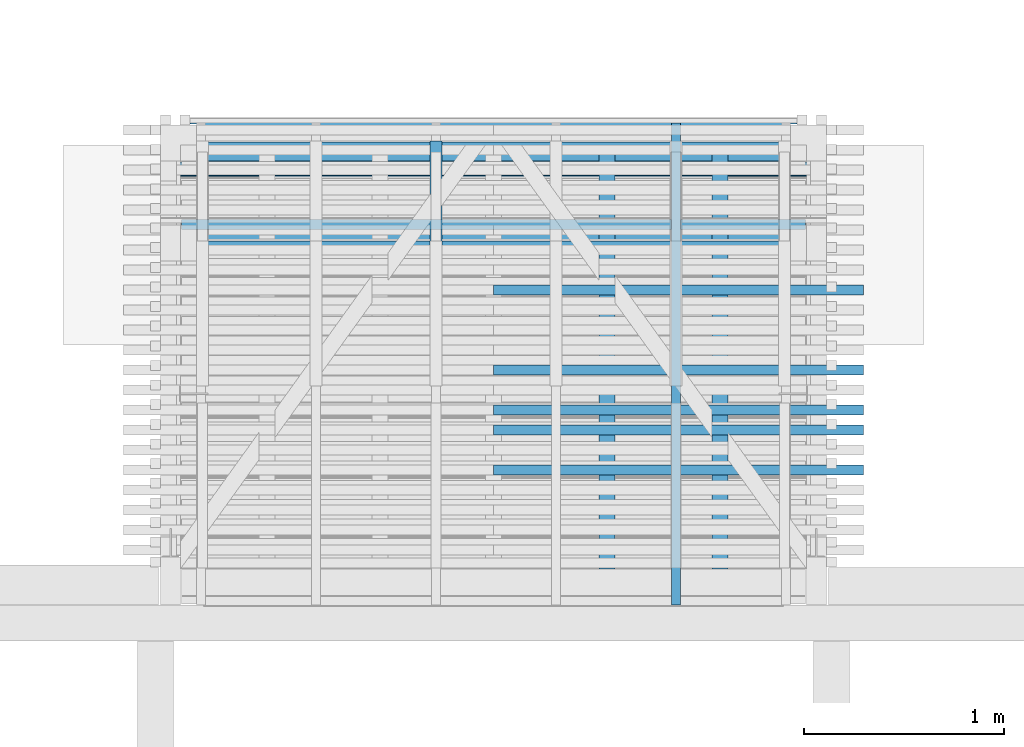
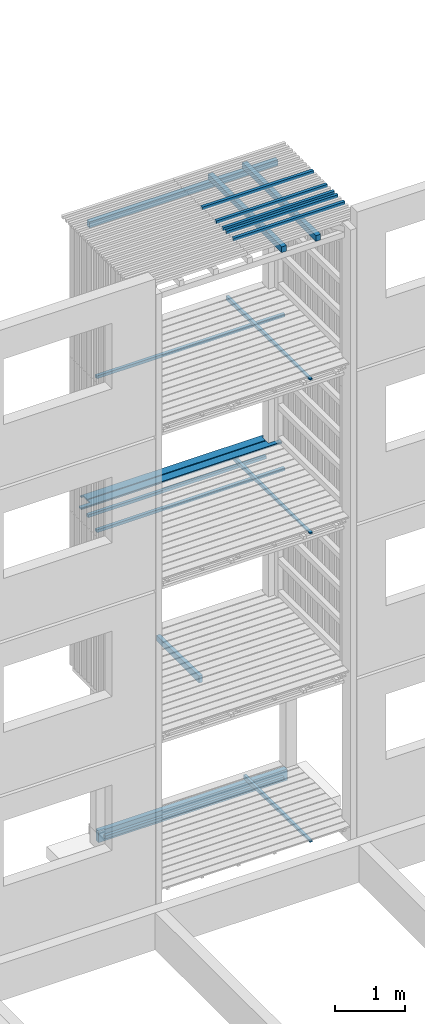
# One storey, part 100 of 182: 19 beams.
"""IFC2X3 building model written with IfcOpenShell, lengths in metres."""

from ifc_helpers import new_model, si_unit, frame, origin, place, context, project, spatial, faceted_brep, element, save


model = new_model("IFC2X3")

# Units and contexts
model_context = context("Model", 3, precision=1e-06, world=origin())
ifc_project = project(units=[si_unit("LENGTHUNIT", "METRE"), si_unit("PLANEANGLEUNIT", "RADIAN")], contexts=[model_context])

# Site, building, storey
site = spatial("IfcSite", under=ifc_project, CompositionType="ELEMENT")
building = spatial("IfcBuilding", under=site, CompositionType="ELEMENT")
storey = spatial("IfcBuildingStorey", under=building, Name="vs", CompositionType="ELEMENT", Elevation=-0.85)

# Beams
placement = place(None, origin())
beam_1_placement = place(placement, frame((43.195401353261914, 6.665077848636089, -0.164999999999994), z_axis=(0.0, 0.0, 1.0), x_axis=(1.0, 0.0, 0.0)))
element("IfcBeam", 1, at=beam_1_placement, inside=storey, Name="Ligneul", context=model_context, shape_type="Brep", body=[
    faceted_brep([(2e-15, -0.024999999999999, 0.025), (2e-15, -0.024999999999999, -0.025), (2.970000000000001, -0.024999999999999, -0.025), (2.970000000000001, -0.024999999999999, 0.025), (2e-15, 0.024999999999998, 0.025), (2e-15, -0.024999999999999, 0.025), (2.970000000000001, -0.024999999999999, 0.025), (2.970000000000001, 0.025000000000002, 0.025), (2e-15, -0.024999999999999, 0.025), (2e-15, 0.024999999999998, 0.025), (2e-15, 0.024999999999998, -0.025), (2e-15, -0.024999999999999, -0.025), (2e-15, 0.024999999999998, -0.025), (2e-15, 0.024999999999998, 0.025), (2.970000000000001, 0.025000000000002, 0.025), (2.970000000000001, 0.025000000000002, -0.025), (2.970000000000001, -0.024999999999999, -0.025), (2e-15, -0.024999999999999, -0.025), (2e-15, 0.024999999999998, -0.025), (2.970000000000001, 0.025000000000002, -0.025), (2.970000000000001, -0.024999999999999, 0.025), (2.970000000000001, -0.024999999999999, -0.025), (2.970000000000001, 0.025000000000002, -0.025), (2.970000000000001, 0.025000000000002, 0.025)], [[[0, 1, 2, 3]], [[4, 5, 6, 7]], [[8, 9, 10, 11]], [[12, 13, 14, 15]], [[16, 17, 18, 19]], [[20, 21, 22, 23]]]),
])
beam_2_placement = place(placement, frame((44.39340135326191, 5.965077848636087, 2.604249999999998), z_axis=(0.0, 0.0, 1.0), x_axis=(1.2e-14, 1.0, 0.0)))
element("IfcBeam", 2, at=beam_2_placement, inside=storey, Name="Solive", context=model_context, shape_type="Brep", body=[
    faceted_brep([(0.0, -0.030000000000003, -0.06185), (1.225000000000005, -0.029999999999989, -0.06185), (1.225000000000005, -0.029999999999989, 0.037349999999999), (0.0, -0.030000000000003, 0.06185), (-1e-15, 0.029999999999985, -0.06185), (1.225000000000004, 0.029999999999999, -0.06185), (1.225000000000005, -0.029999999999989, -0.06185), (0.0, -0.030000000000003, -0.06185), (-1e-15, 0.029999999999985, 0.06185), (-1e-15, 0.029999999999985, -0.06185), (0.0, -0.030000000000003, -0.06185), (0.0, -0.030000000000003, 0.06185), (1.225000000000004, 0.029999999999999, -0.06185), (-1e-15, 0.029999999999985, -0.06185), (-1e-15, 0.029999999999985, 0.06185), (1.225000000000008, 0.029999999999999, 0.037349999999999), (1.225000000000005, -0.029999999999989, 0.037349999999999), (1.225000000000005, -0.029999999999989, -0.06185), (1.225000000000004, 0.029999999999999, -0.06185), (1.225000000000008, 0.029999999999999, 0.037349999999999), (0.0, -0.030000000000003, 0.06185), (1.225000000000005, -0.029999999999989, 0.037349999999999), (1.225000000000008, 0.029999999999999, 0.037349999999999), (-1e-15, 0.029999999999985, 0.06185)], [[[0, 1, 2, 3]], [[4, 5, 6, 7]], [[8, 9, 10, 11]], [[12, 13, 14, 15]], [[16, 17, 18, 19]], [[20, 21, 22, 23]]]),
])
beam_3_placement = place(placement, frame((46.325401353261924, 7.130077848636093, 10.30499999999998), z_axis=(0.0, 0.0, 1.0), x_axis=(-1.0, 0.0, 0.0)))
element("IfcBeam", 3, at=beam_3_placement, inside=storey, Name="Support bardage", context=model_context, shape_type="Brep", body=[
    faceted_brep([(3e-15, 0.04, -0.050000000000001), (3e-15, -0.039999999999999, -0.050000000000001), (3e-15, -0.039999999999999, 0.050000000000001), (3e-15, 0.04, 0.050000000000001), (3.129999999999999, -0.039999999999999, 0.050000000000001), (3.129999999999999, -0.039999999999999, -0.050000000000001), (3.129999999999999, 0.04, -0.050000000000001), (3.129999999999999, 0.04, 0.050000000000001), (3e-15, -0.039999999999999, -0.050000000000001), (3e-15, 0.04, -0.050000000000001), (3.129999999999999, 0.04, -0.050000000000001), (3.129999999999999, -0.039999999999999, -0.050000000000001), (3e-15, -0.039999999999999, 0.050000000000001), (3e-15, -0.039999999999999, -0.050000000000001), (3.129999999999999, -0.039999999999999, -0.050000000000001), (3.129999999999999, -0.039999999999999, 0.050000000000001), (3e-15, 0.04, 0.050000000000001), (3e-15, -0.039999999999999, 0.050000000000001), (3.129999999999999, -0.039999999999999, 0.050000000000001), (3.129999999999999, 0.04, 0.050000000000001), (3.129999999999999, 0.04, -0.050000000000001), (3e-15, 0.04, -0.050000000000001), (3e-15, 0.04, 0.050000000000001), (3.129999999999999, 0.04, 0.050000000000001)], [[[0, 1, 2, 3]], [[4, 5, 6, 7]], [[8, 9, 10, 11]], [[12, 13, 14, 15]], [[16, 17, 18, 19]], [[20, 21, 22, 23]]]),
])
beam_4_placement = place(placement, frame((46.19721953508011, 7.234577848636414, 5.433499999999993), z_axis=(0.0, 0.0, 1.0), x_axis=(-1.0, 0.0, 0.0)))
element("IfcBeam", 4, at=beam_4_placement, inside=storey, Name="Caillebotis", context=model_context, shape_type="Brep", body=[
    faceted_brep([(3.033636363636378, -0.072499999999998, -0.0135), (3.033636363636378, -0.072499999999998, 0.008500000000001), (2e-15, -0.072499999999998, 0.008500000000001), (2e-15, -0.072500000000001, -0.0135), (2.996818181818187, 0.072500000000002, 0.0085), (2.996818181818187, 0.067500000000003, 0.0135), (2.996818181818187, -0.040499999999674, 0.0135), (2.996818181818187, -0.040499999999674, -0.0135), (2.996818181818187, 0.072500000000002, -0.013500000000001), (0.036818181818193, -0.040499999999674, -0.0135), (0.036818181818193, 0.072499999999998, -0.0135), (2.996818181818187, 0.072500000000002, -0.013500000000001), (2.996818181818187, -0.040499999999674, -0.0135), (3.033636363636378, -0.040499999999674, -0.013500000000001), (3.033636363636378, -0.072499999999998, -0.0135), (2e-15, -0.072500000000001, -0.0135), (2e-15, -0.040499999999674, -0.0135), (3.033636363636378, -0.072499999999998, 0.008500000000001), (3.033636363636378, -0.072499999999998, -0.0135), (3.033636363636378, -0.040499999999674, -0.013500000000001), (3.033636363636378, -0.040499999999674, 0.0135), (3.033636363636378, -0.067500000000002, 0.0135), (3.033636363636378, -0.040499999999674, 0.0135), (3.033636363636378, -0.040499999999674, -0.013500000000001), (2.996818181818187, -0.040499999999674, -0.0135), (2.996818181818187, -0.040499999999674, 0.0135), (2.996818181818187, 0.072500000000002, 0.0085), (2.996818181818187, 0.072500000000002, -0.013500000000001), (0.036818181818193, 0.072499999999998, -0.0135), (0.036818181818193, 0.072499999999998, 0.008500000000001), (2.996818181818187, 0.067500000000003, 0.0135), (2.996818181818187, 0.072500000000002, 0.0085), (0.036818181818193, 0.072499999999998, 0.008500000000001), (0.036818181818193, 0.067500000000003, 0.0135), (0.036818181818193, 0.067500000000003, 0.0135), (0.036818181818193, 0.072499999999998, 0.008500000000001), (0.036818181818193, 0.072499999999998, -0.0135), (0.036818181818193, -0.040499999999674, -0.0135), (0.036818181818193, -0.040499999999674, 0.0135), (0.036818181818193, -0.040499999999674, 0.0135), (0.036818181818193, -0.040499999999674, -0.0135), (2e-15, -0.040499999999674, -0.0135), (2e-15, -0.040499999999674, 0.0135), (3.033636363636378, -0.067500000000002, 0.0135), (3.033636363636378, -0.040499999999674, 0.0135), (2.996818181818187, -0.040499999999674, 0.0135), (2.996818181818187, 0.067500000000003, 0.0135), (0.036818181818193, 0.067500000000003, 0.0135), (0.036818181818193, -0.040499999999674, 0.0135), (2e-15, -0.040499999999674, 0.0135), (2e-15, -0.067500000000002, 0.0135), (2e-15, -0.072499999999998, 0.008500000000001), (3.033636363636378, -0.072499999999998, 0.008500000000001), (3.033636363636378, -0.067500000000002, 0.0135), (2e-15, -0.067500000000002, 0.0135), (2e-15, -0.072500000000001, -0.0135), (2e-15, -0.072499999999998, 0.008500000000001), (2e-15, -0.067500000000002, 0.0135), (2e-15, -0.040499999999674, 0.0135), (2e-15, -0.040499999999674, -0.0135)], [[[0, 1, 2, 3]], [[4, 5, 6, 7, 8]], [[9, 10, 11, 12, 13, 14, 15, 16]], [[17, 18, 19, 20, 21]], [[22, 23, 24, 25]], [[26, 27, 28, 29]], [[30, 31, 32, 33]], [[34, 35, 36, 37, 38]], [[39, 40, 41, 42]], [[43, 44, 45, 46, 47, 48, 49, 50]], [[51, 52, 53, 54]], [[55, 56, 57, 58, 59]]]),
])
beam_5_placement = place(placement, frame((46.240401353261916, 6.771744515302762, 5.167399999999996), z_axis=(0.0, 0.0, 1.0), x_axis=(-1.0, 0.0, 0.0)))
element("IfcBeam", 5, at=beam_5_placement, inside=storey, Name="Bardage", context=model_context, shape_type="Brep", body=[
    faceted_brep([(3.120000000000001, 0.025000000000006, 0.024999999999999), (3.120000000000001, -0.024999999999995, 0.024999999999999), (3.120000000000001, -0.024999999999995, -0.025), (3.120000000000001, 0.025000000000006, -0.025), (-3e-15, -0.024999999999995, 0.024999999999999), (-3e-15, 0.025000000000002, 0.024999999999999), (-3e-15, 0.025000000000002, -0.025), (-3e-15, -0.024999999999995, -0.025), (-3e-15, -0.024999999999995, -0.025), (-3e-15, 0.025000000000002, -0.025), (3.120000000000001, 0.025000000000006, -0.025), (3.120000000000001, -0.024999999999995, -0.025), (3.120000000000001, -0.024999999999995, -0.025), (3.120000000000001, -0.024999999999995, 0.024999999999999), (-3e-15, -0.024999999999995, 0.024999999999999), (-3e-15, -0.024999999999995, -0.025), (3.120000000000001, 0.025000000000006, 0.024999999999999), (3.120000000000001, 0.025000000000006, -0.025), (-3e-15, 0.025000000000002, -0.025), (-3e-15, 0.025000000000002, 0.024999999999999), (3.120000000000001, -0.024999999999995, 0.024999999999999), (3.120000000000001, 0.025000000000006, 0.024999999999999), (-3e-15, 0.025000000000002, 0.024999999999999), (-3e-15, -0.024999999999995, 0.024999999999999)], [[[0, 1, 2, 3]], [[4, 5, 6, 7]], [[8, 9, 10, 11]], [[12, 13, 14, 15]], [[16, 17, 18, 19]], [[20, 21, 22, 23]]]),
])
beam_6_placement = place(placement, frame((46.240401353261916, 6.771744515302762, 7.86739999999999), z_axis=(0.0, 0.0, 1.0), x_axis=(-1.0, 0.0, 0.0)))
element("IfcBeam", 6, at=beam_6_placement, inside=storey, Name="Bardage", context=model_context, shape_type="Brep", body=[
    faceted_brep([(-3e-15, -0.024999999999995, 0.025000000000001), (-3e-15, 0.025000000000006, 0.025000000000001), (-3e-15, 0.025000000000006, -0.024999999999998), (-3e-15, -0.024999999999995, -0.024999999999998), (3.119999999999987, 0.025000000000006, 0.025000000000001), (3.120000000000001, -0.024999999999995, 0.025000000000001), (3.120000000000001, -0.024999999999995, -0.024999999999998), (3.119999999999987, 0.025000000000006, -0.024999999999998), (3.120000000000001, -0.024999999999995, 0.025000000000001), (3.119999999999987, 0.025000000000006, 0.025000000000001), (-3e-15, 0.025000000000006, 0.025000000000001), (-3e-15, -0.024999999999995, 0.025000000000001), (-3e-15, 0.025000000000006, 0.025000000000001), (3.119999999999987, 0.025000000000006, 0.025000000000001), (3.119999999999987, 0.025000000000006, -0.024999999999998), (-3e-15, 0.025000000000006, -0.024999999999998), (-3e-15, -0.024999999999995, -0.024999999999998), (-3e-15, 0.025000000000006, -0.024999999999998), (3.119999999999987, 0.025000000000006, -0.024999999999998), (3.120000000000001, -0.024999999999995, -0.024999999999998), (3.120000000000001, -0.024999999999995, -0.024999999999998), (3.120000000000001, -0.024999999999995, 0.025000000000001), (-3e-15, -0.024999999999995, 0.025000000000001), (-3e-15, -0.024999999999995, -0.024999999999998)], [[[0, 1, 2, 3]], [[4, 5, 6, 7]], [[8, 9, 10, 11]], [[12, 13, 14, 15]], [[16, 17, 18, 19]], [[20, 21, 22, 23]]]),
])
beam_7_placement = place(placement, frame((46.16040135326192, 7.160077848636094, 5.167399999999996), z_axis=(0.0, 0.0, 1.0), x_axis=(-1.0, 0.0, 0.0)))
element("IfcBeam", 7, at=beam_7_placement, inside=storey, Name="Bardage", context=model_context, shape_type="Brep", body=[
    faceted_brep([(2.96000000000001, -0.024999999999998, 0.025), (2.96000000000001, -0.024999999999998, -0.025), (2.96000000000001, 0.025000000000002, -0.025), (2.96000000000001, 0.025000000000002, 0.025), (2e-15, 0.024999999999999, 0.025), (2e-15, 0.024999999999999, -0.025), (2e-15, -0.024999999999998, -0.025), (2e-15, -0.024999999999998, 0.025), (2e-15, -0.024999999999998, -0.025), (2e-15, 0.024999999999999, -0.025), (2.96000000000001, 0.025000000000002, -0.025), (2.96000000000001, -0.024999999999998, -0.025), (2e-15, 0.024999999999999, -0.025), (2e-15, 0.024999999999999, 0.025), (2.96000000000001, 0.025000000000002, 0.025), (2.96000000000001, 0.025000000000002, -0.025), (2e-15, 0.024999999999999, 0.025), (2e-15, -0.024999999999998, 0.025), (2.96000000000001, -0.024999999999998, 0.025), (2.96000000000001, 0.025000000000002, 0.025), (2e-15, -0.024999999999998, 0.025), (2e-15, -0.024999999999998, -0.025), (2.96000000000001, -0.024999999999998, -0.025), (2.96000000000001, -0.024999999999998, 0.025)], [[[0, 1, 2, 3]], [[4, 5, 6, 7]], [[8, 9, 10, 11]], [[12, 13, 14, 15]], [[16, 17, 18, 19]], [[20, 21, 22, 23]]]),
])
beam_8_placement = place(placement, frame((46.24540135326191, 6.73007784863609, -0.159999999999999), z_axis=(0.0, 0.0, 1.0), x_axis=(-1.0, 0.0, 0.0)))
element("IfcBeam", 8, at=beam_8_placement, inside=storey, Name="Sommier", context=model_context, shape_type="Brep", body=[
    faceted_brep([(3.129999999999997, 0.040000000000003, -0.1), (3.129999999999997, -0.039999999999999, -0.1), (1e-15, -0.040000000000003, -0.1), (1e-15, 0.039999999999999, -0.1), (3.129999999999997, 0.040000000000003, 0.1), (3.129999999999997, 0.040000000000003, -0.1), (1e-15, 0.039999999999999, -0.1), (1e-15, 0.039999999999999, 0.1), (3.129999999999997, 0.040000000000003, -0.1), (3.129999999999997, 0.040000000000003, 0.1), (3.129999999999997, -0.039999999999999, 0.1), (3.129999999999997, -0.039999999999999, -0.1), (3.129999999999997, -0.039999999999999, 0.1), (3.129999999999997, 0.040000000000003, 0.1), (1e-15, 0.039999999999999, 0.1), (1e-15, -0.040000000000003, 0.1), (1e-15, -0.040000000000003, -0.1), (3.129999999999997, -0.039999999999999, -0.1), (3.129999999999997, -0.039999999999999, 0.1), (1e-15, -0.040000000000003, 0.1), (1e-15, 0.039999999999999, -0.1), (1e-15, -0.040000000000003, -0.1), (1e-15, -0.040000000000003, 0.1), (1e-15, 0.039999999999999, 0.1)], [[[0, 1, 2, 3]], [[4, 5, 6, 7]], [[8, 9, 10, 11]], [[12, 13, 14, 15]], [[16, 17, 18, 19]], [[20, 21, 22, 23]]]),
])
beam_9_placement = place(placement, frame((46.34540135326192, 7.084577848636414, 5.433499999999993), z_axis=(0.0, 0.0, 1.0), x_axis=(-1.0, 0.0, 0.0)))
element("IfcBeam", 9, at=beam_9_placement, inside=storey, Name="Caillebotis", context=model_context, shape_type="Brep", body=[
    faceted_brep([(3.144999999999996, -0.000499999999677, 0.0135), (3.144999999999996, -0.000499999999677, -0.0135), (3.329999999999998, -0.000499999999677, -0.0135), (3.329999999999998, -0.000499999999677, 0.0135), (3.329999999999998, 0.072500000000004, -0.0135), (3.329999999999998, 0.0725, 0.008500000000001), (3.329999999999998, 0.067500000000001, 0.0135), (3.329999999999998, -0.000499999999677, 0.0135), (3.329999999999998, -0.000499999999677, -0.0135), (3.144999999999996, -0.072499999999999, 0.008500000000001), (3.144999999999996, -0.072499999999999, -0.013500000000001), (3.144999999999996, -0.000499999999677, -0.0135), (3.144999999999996, -0.000499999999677, 0.0135), (3.144999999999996, -0.0675, 0.0135), (3.144999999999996, -0.072499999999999, -0.013500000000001), (3.144999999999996, -0.072499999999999, 0.008500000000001), (0.185000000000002, -0.072499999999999, 0.008500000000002), (0.185000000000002, -0.072499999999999, -0.0135), (3.144999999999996, -0.072499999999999, 0.008500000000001), (3.144999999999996, -0.0675, 0.0135), (0.185000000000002, -0.067500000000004, 0.0135), (0.185000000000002, -0.072499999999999, 0.008500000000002), (0.185000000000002, -0.072499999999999, -0.0135), (0.185000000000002, -0.072499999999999, 0.008500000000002), (0.185000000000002, -0.067500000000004, 0.0135), (0.185000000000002, -0.000499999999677, 0.0135), (0.185000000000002, -0.000499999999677, -0.0135), (1.4e-14, -0.000499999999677, 0.0135), (0.0, 0.067500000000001, 0.0135), (0.0, 0.0725, 0.008500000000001), (0.0, 0.0725, -0.0135), (0.0, -0.000499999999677, -0.0135), (3.329999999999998, 0.0725, 0.008500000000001), (3.329999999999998, 0.072500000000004, -0.0135), (0.0, 0.0725, -0.0135), (0.0, 0.0725, 0.008500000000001), (3.329999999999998, 0.067500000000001, 0.0135), (3.329999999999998, 0.0725, 0.008500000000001), (0.0, 0.0725, 0.008500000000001), (0.0, 0.067500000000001, 0.0135), (3.144999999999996, -0.0675, 0.0135), (3.144999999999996, -0.000499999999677, 0.0135), (3.329999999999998, -0.000499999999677, 0.0135), (3.329999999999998, 0.067500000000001, 0.0135), (0.0, 0.067500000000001, 0.0135), (1.4e-14, -0.000499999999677, 0.0135), (0.185000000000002, -0.000499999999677, 0.0135), (0.185000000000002, -0.067500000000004, 0.0135), (0.185000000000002, -0.000499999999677, -0.0135), (0.185000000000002, -0.000499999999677, 0.0135), (1.4e-14, -0.000499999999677, 0.0135), (0.0, -0.000499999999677, -0.0135), (0.0, -0.000499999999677, -0.0135), (0.0, 0.0725, -0.0135), (3.329999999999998, 0.072500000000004, -0.0135), (3.329999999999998, -0.000499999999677, -0.0135), (3.144999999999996, -0.000499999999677, -0.0135), (3.144999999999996, -0.072499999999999, -0.013500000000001), (0.185000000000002, -0.072499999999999, -0.0135), (0.185000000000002, -0.000499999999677, -0.0135)], [[[0, 1, 2, 3]], [[4, 5, 6, 7, 8]], [[9, 10, 11, 12, 13]], [[14, 15, 16, 17]], [[18, 19, 20, 21]], [[22, 23, 24, 25, 26]], [[27, 28, 29, 30, 31]], [[32, 33, 34, 35]], [[36, 37, 38, 39]], [[40, 41, 42, 43, 44, 45, 46, 47]], [[48, 49, 50, 51]], [[52, 53, 54, 55, 56, 57, 58, 59]]]),
])
beam_10_placement = place(placement, frame((46.53040135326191, 6.445077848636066, 10.47999999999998), z_axis=(0.0, 0.0, 1.0), x_axis=(-1.0, 0.0, 0.0)))
element("IfcBeam", 10, at=beam_10_placement, inside=storey, Name="Bardage", context=model_context, shape_type="Brep", body=[
    faceted_brep([(-3e-15, 0.025000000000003, 0.025000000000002), (-3e-15, -0.024999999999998, 0.025000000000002), (1.849999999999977, -0.025000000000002, 0.025000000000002), (1.849999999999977, 0.025000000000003, 0.025000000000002), (1.849999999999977, -0.025000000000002, 0.025000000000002), (-3e-15, -0.024999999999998, 0.025000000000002), (-3e-15, -0.024999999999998, -0.024999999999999), (1.849999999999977, -0.025000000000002, -0.024999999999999), (-3e-15, -0.024999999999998, 0.025000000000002), (-3e-15, 0.025000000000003, 0.025000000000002), (-3e-15, 0.025000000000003, -0.024999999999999), (-3e-15, -0.024999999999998, -0.024999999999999), (-3e-15, 0.025000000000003, -0.024999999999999), (-3e-15, 0.025000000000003, 0.025000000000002), (1.849999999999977, 0.025000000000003, 0.025000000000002), (1.849999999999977, 0.025000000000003, -0.024999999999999), (1.849999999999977, -0.025000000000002, -0.024999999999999), (-3e-15, -0.024999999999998, -0.024999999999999), (-3e-15, 0.025000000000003, -0.024999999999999), (1.849999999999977, 0.025000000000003, -0.024999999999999), (1.849999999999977, -0.025000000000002, 0.025000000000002), (1.849999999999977, -0.025000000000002, -0.024999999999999), (1.849999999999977, 0.025000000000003, -0.024999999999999), (1.849999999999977, 0.025000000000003, 0.025000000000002)], [[[0, 1, 2, 3]], [[4, 5, 6, 7]], [[8, 9, 10, 11]], [[12, 13, 14, 15]], [[16, 17, 18, 19]], [[20, 21, 22, 23]]]),
])
beam_11_placement = place(placement, frame((46.53040135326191, 5.545077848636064, 10.47999999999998), z_axis=(0.0, 0.0, 1.0), x_axis=(-1.0, 0.0, 0.0)))
element("IfcBeam", 11, at=beam_11_placement, inside=storey, Name="Bardage", context=model_context, shape_type="Brep", body=[
    faceted_brep([(-3e-15, 0.024999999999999, 0.025000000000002), (-3e-15, -0.025000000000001, 0.025000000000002), (1.849999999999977, -0.025000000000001, 0.025000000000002), (1.849999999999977, 0.024999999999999, 0.025000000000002), (1.849999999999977, -0.025000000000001, 0.025000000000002), (-3e-15, -0.025000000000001, 0.025000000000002), (-3e-15, -0.025000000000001, -0.024999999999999), (1.849999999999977, -0.025000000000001, -0.024999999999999), (-3e-15, -0.025000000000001, 0.025000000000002), (-3e-15, 0.024999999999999, 0.025000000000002), (-3e-15, 0.024999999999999, -0.024999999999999), (-3e-15, -0.025000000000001, -0.024999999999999), (-3e-15, 0.024999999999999, -0.024999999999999), (-3e-15, 0.024999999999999, 0.025000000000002), (1.849999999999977, 0.024999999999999, 0.025000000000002), (1.849999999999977, 0.024999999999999, -0.024999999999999), (1.849999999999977, -0.025000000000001, -0.024999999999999), (-3e-15, -0.025000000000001, -0.024999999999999), (-3e-15, 0.024999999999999, -0.024999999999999), (1.849999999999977, 0.024999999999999, -0.024999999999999), (1.849999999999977, -0.025000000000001, 0.025000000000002), (1.849999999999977, -0.025000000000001, -0.024999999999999), (1.849999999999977, 0.024999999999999, -0.024999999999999), (1.849999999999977, 0.024999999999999, 0.025000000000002)], [[[0, 1, 2, 3]], [[4, 5, 6, 7]], [[8, 9, 10, 11]], [[12, 13, 14, 15]], [[16, 17, 18, 19]], [[20, 21, 22, 23]]]),
])
beam_12_placement = place(placement, frame((46.53040135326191, 5.745077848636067, 10.47999999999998), z_axis=(0.0, 0.0, 1.0), x_axis=(-1.0, 0.0, 0.0)))
element("IfcBeam", 12, at=beam_12_placement, inside=storey, Name="Bardage", context=model_context, shape_type="Brep", body=[
    faceted_brep([(-3e-15, 0.025000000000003, 0.025000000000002), (-3e-15, -0.024999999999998, 0.025000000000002), (1.849999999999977, -0.024999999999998, 0.025000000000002), (1.849999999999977, 0.024999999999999, 0.025000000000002), (1.849999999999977, -0.024999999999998, 0.025000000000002), (-3e-15, -0.024999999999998, 0.025000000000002), (-3e-15, -0.024999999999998, -0.024999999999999), (1.849999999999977, -0.024999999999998, -0.024999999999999), (-3e-15, -0.024999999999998, 0.025000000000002), (-3e-15, 0.025000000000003, 0.025000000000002), (-3e-15, 0.025000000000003, -0.024999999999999), (-3e-15, -0.024999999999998, -0.024999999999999), (-3e-15, 0.025000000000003, -0.024999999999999), (-3e-15, 0.025000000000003, 0.025000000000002), (1.849999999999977, 0.024999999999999, 0.025000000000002), (1.849999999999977, 0.024999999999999, -0.024999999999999), (1.849999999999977, -0.024999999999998, -0.024999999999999), (-3e-15, -0.024999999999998, -0.024999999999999), (-3e-15, 0.025000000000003, -0.024999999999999), (1.849999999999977, 0.024999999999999, -0.024999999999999), (1.849999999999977, -0.024999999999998, 0.025000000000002), (1.849999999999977, -0.024999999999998, -0.024999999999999), (1.849999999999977, 0.024999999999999, -0.024999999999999), (1.849999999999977, 0.024999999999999, 0.025000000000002)], [[[0, 1, 2, 3]], [[4, 5, 6, 7]], [[8, 9, 10, 11]], [[12, 13, 14, 15]], [[16, 17, 18, 19]], [[20, 21, 22, 23]]]),
])
beam_13_placement = place(placement, frame((46.53040135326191, 6.045077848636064, 10.47999999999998), z_axis=(0.0, 0.0, 1.0), x_axis=(-1.0, 0.0, 0.0)))
element("IfcBeam", 13, at=beam_13_placement, inside=storey, Name="Bardage", context=model_context, shape_type="Brep", body=[
    faceted_brep([(-3e-15, 0.024999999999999, 0.025000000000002), (-3e-15, -0.025000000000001, 0.025000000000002), (1.849999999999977, -0.025000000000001, 0.025000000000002), (1.849999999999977, 0.024999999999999, 0.025000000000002), (1.849999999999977, -0.025000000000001, 0.025000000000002), (-3e-15, -0.025000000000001, 0.025000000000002), (-3e-15, -0.025000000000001, -0.024999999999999), (1.849999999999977, -0.025000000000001, -0.024999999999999), (-3e-15, -0.025000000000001, 0.025000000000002), (-3e-15, 0.024999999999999, 0.025000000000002), (-3e-15, 0.024999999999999, -0.024999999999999), (-3e-15, -0.025000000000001, -0.024999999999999), (-3e-15, 0.024999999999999, -0.024999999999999), (-3e-15, 0.024999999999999, 0.025000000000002), (1.849999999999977, 0.024999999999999, 0.025000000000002), (1.849999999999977, 0.024999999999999, -0.024999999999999), (1.849999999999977, -0.025000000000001, -0.024999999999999), (-3e-15, -0.025000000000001, -0.024999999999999), (-3e-15, 0.024999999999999, -0.024999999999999), (1.849999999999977, 0.024999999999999, -0.024999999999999), (1.849999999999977, -0.025000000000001, 0.025000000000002), (1.849999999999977, -0.025000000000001, -0.024999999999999), (1.849999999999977, 0.024999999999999, -0.024999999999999), (1.849999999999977, 0.024999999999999, 0.025000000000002)], [[[0, 1, 2, 3]], [[4, 5, 6, 7]], [[8, 9, 10, 11]], [[12, 13, 14, 15]], [[16, 17, 18, 19]], [[20, 21, 22, 23]]]),
])
beam_14_placement = place(placement, frame((45.59340135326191, 4.870077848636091, 5.384400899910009), z_axis=(0.0, 0.0, 1.0), x_axis=(0.0, 1.0, 0.0)))
element("IfcBeam", 14, at=beam_14_placement, inside=storey, Name="Calage", context=model_context, shape_type="Brep", body=[
    faceted_brep([(2.410000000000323, -0.022500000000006, -0.035599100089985), (0.0, -0.022500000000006, 0.012600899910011), (0.0, 0.022499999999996, 0.012600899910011), (2.410000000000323, 0.022499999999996, -0.035599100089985), (0.0, 0.022499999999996, 0.035599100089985), (0.0, 0.022499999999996, 0.012600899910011), (0.0, -0.022500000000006, 0.012600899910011), (0.0, -0.022500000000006, 0.035599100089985), (2.410000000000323, 0.022499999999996, -0.035599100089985), (0.0, 0.022499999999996, 0.012600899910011), (0.0, 0.022499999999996, 0.035599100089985), (2.410000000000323, 0.022499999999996, 0.035599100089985), (2.410000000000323, -0.022500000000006, 0.035599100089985), (0.0, -0.022500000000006, 0.035599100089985), (0.0, -0.022500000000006, 0.012600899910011), (2.410000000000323, -0.022500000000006, -0.035599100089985), (2.410000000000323, 0.022499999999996, 0.035599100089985), (0.0, 0.022499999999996, 0.035599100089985), (0.0, -0.022500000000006, 0.035599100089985), (2.410000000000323, -0.022500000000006, 0.035599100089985), (2.410000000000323, 0.022499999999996, -0.035599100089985), (2.410000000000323, 0.022499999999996, 0.035599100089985), (2.410000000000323, -0.022500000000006, 0.035599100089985), (2.410000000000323, -0.022500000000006, -0.035599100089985)], [[[0, 1, 2, 3]], [[4, 5, 6, 7]], [[8, 9, 10, 11]], [[12, 13, 14, 15]], [[16, 17, 18, 19]], [[20, 21, 22, 23]]]),
])
beam_15_placement = place(placement, frame((45.59340135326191, 4.870077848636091, -0.015599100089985), z_axis=(0.0, 0.0, 1.0), x_axis=(0.0, 1.0, 0.0)))
element("IfcBeam", 15, at=beam_15_placement, inside=storey, Name="Calage", context=model_context, shape_type="Brep", body=[
    faceted_brep([(0.0, 0.022499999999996, 0.002600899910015), (1.91000000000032, 0.022499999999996, -0.035599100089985), (1.91000000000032, -0.022500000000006, -0.035599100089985), (0.0, -0.022500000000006, 0.002600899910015), (0.0, -0.022500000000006, 0.035599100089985), (0.0, 0.022499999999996, 0.035599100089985), (0.0, 0.022499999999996, 0.002600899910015), (0.0, -0.022500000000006, 0.002600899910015), (0.0, 0.022499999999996, 0.035599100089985), (0.0, -0.022500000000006, 0.035599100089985), (1.91000000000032, -0.022500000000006, 0.035599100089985), (1.91000000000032, 0.022499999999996, 0.035599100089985), (0.0, 0.022499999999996, 0.002600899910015), (0.0, 0.022499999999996, 0.035599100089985), (1.91000000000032, 0.022499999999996, 0.035599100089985), (1.91000000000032, 0.022499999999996, -0.035599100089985), (1.91000000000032, 0.022499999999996, -0.035599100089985), (1.91000000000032, 0.022499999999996, 0.035599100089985), (1.91000000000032, -0.022500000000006, 0.035599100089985), (1.91000000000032, -0.022500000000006, -0.035599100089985), (1.91000000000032, -0.022500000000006, -0.035599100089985), (1.91000000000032, -0.022500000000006, 0.035599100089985), (0.0, -0.022500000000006, 0.035599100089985), (0.0, -0.022500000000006, 0.002600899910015)], [[[0, 1, 2, 3]], [[4, 5, 6, 7]], [[8, 9, 10, 11]], [[12, 13, 14, 15]], [[16, 17, 18, 19]], [[20, 21, 22, 23]]]),
])
beam_16_placement = place(placement, frame((46.53040135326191, 5.845077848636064, 10.47999999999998), z_axis=(0.0, 0.0, 1.0), x_axis=(-1.0, 2e-15, 0.0)))
element("IfcBeam", 16, at=beam_16_placement, inside=storey, Name="Bardage", context=model_context, shape_type="Brep", body=[
    faceted_brep([(-3e-15, 0.024999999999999, 0.025000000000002), (-3e-15, -0.025000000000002, 0.025000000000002), (1.849999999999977, -0.024999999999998, 0.025000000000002), (1.849999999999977, 0.025000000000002, 0.025000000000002), (1.849999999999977, -0.024999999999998, 0.025000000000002), (-3e-15, -0.025000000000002, 0.025000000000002), (-3e-15, -0.025000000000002, -0.024999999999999), (1.849999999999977, -0.024999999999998, -0.024999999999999), (-3e-15, -0.025000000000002, 0.025000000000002), (-3e-15, 0.024999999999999, 0.025000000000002), (-3e-15, 0.024999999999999, -0.024999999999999), (-3e-15, -0.025000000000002, -0.024999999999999), (-3e-15, 0.024999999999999, -0.024999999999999), (-3e-15, 0.024999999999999, 0.025000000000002), (1.849999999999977, 0.025000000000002, 0.025000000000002), (1.849999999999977, 0.025000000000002, -0.024999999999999), (1.849999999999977, -0.024999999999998, -0.024999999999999), (-3e-15, -0.025000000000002, -0.024999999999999), (-3e-15, 0.024999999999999, -0.024999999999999), (1.849999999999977, 0.025000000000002, -0.024999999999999), (1.849999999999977, -0.024999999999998, 0.025000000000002), (1.849999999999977, -0.024999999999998, -0.024999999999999), (1.849999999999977, 0.025000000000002, -0.024999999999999), (1.849999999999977, 0.025000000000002, 0.025000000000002)], [[[0, 1, 2, 3]], [[4, 5, 6, 7]], [[8, 9, 10, 11]], [[12, 13, 14, 15]], [[16, 17, 18, 19]], [[20, 21, 22, 23]]]),
])
beam_17_placement = place(placement, frame((45.59340135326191, 4.870077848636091, 8.084400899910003), z_axis=(0.0, 0.0, 1.0), x_axis=(6e-15, 1.0, 0.0)))
element("IfcBeam", 17, at=beam_17_placement, inside=storey, Name="Calage", context=model_context, shape_type="Brep", body=[
    faceted_brep([(2.410000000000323, -0.022499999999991, -0.035599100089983), (0.0, -0.022500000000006, 0.012600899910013), (0.0, 0.022499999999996, 0.012600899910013), (2.410000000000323, 0.022500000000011, -0.035599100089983), (0.0, 0.022499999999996, 0.035599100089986), (0.0, 0.022499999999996, 0.012600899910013), (0.0, -0.022500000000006, 0.012600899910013), (0.0, -0.022500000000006, 0.035599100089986), (2.410000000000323, 0.022500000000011, -0.035599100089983), (0.0, 0.022499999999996, 0.012600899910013), (0.0, 0.022499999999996, 0.035599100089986), (2.410000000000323, 0.022500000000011, 0.035599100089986), (2.410000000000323, -0.022499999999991, 0.035599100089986), (0.0, -0.022500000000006, 0.035599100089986), (0.0, -0.022500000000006, 0.012600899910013), (2.410000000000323, -0.022499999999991, -0.035599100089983), (2.410000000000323, 0.022500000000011, 0.035599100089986), (0.0, 0.022499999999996, 0.035599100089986), (0.0, -0.022500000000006, 0.035599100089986), (2.410000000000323, -0.022499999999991, 0.035599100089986), (2.410000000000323, 0.022500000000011, -0.035599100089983), (2.410000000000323, 0.022500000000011, 0.035599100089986), (2.410000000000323, -0.022499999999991, 0.035599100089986), (2.410000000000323, -0.022499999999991, -0.035599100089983)], [[[0, 1, 2, 3]], [[4, 5, 6, 7]], [[8, 9, 10, 11]], [[12, 13, 14, 15]], [[16, 17, 18, 19]], [[20, 21, 22, 23]]]),
])
beam_18_placement = place(placement, frame((45.24706801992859, 5.050077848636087, 10.404999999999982), z_axis=(0.0, 0.0, 1.0), x_axis=(0.0, 1.0, 0.0)))
element("IfcBeam", 18, at=beam_18_placement, inside=storey, Name="Support bardage", context=model_context, shape_type="Brep", body=[
    faceted_brep([(2.120000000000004, -0.039999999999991, 0.050000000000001), (2.120000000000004, 0.040000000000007, 0.050000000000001), (3e-15, 0.040000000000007, 0.050000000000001), (3e-15, -0.039999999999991, 0.050000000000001), (3e-15, 0.040000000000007, 0.050000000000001), (2.120000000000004, 0.040000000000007, 0.050000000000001), (2.120000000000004, 0.040000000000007, -0.050000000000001), (3e-15, 0.040000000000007, -0.050000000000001), (2.120000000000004, 0.040000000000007, 0.050000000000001), (2.120000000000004, -0.039999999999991, 0.050000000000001), (2.120000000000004, -0.039999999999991, -0.050000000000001), (2.120000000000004, 0.040000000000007, -0.050000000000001), (2.120000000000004, -0.039999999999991, -0.050000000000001), (2.120000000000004, -0.039999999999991, 0.050000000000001), (3e-15, -0.039999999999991, 0.050000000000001), (3e-15, -0.039999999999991, -0.050000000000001), (3e-15, 0.040000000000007, -0.050000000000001), (2.120000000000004, 0.040000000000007, -0.050000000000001), (2.120000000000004, -0.039999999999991, -0.050000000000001), (3e-15, -0.039999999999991, -0.050000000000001), (3e-15, 0.040000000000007, 0.050000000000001), (3e-15, 0.040000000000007, -0.050000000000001), (3e-15, -0.039999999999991, -0.050000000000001), (3e-15, -0.039999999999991, 0.050000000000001)], [[[0, 1, 2, 3]], [[4, 5, 6, 7]], [[8, 9, 10, 11]], [[12, 13, 14, 15]], [[16, 17, 18, 19]], [[20, 21, 22, 23]]]),
])
beam_19_placement = place(placement, frame((45.813734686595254, 5.050077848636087, 10.404999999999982), z_axis=(0.0, 0.0, 1.0), x_axis=(0.0, 1.0, 0.0)))
element("IfcBeam", 19, at=beam_19_placement, inside=storey, Name="Support bardage", context=model_context, shape_type="Brep", body=[
    faceted_brep([(2.120000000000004, -0.040000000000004, 0.050000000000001), (2.120000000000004, 0.039999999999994, 0.050000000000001), (3e-15, 0.039999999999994, 0.050000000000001), (3e-15, -0.040000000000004, 0.050000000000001), (3e-15, 0.039999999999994, 0.050000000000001), (2.120000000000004, 0.039999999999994, 0.050000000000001), (2.120000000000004, 0.039999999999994, -0.050000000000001), (3e-15, 0.039999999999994, -0.050000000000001), (2.120000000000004, 0.039999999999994, 0.050000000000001), (2.120000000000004, -0.040000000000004, 0.050000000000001), (2.120000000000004, -0.040000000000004, -0.050000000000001), (2.120000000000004, 0.039999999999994, -0.050000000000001), (2.120000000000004, -0.040000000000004, -0.050000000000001), (2.120000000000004, -0.040000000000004, 0.050000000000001), (3e-15, -0.040000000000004, 0.050000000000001), (3e-15, -0.040000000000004, -0.050000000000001), (3e-15, 0.039999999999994, -0.050000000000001), (2.120000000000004, 0.039999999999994, -0.050000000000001), (2.120000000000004, -0.040000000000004, -0.050000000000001), (3e-15, -0.040000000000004, -0.050000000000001), (3e-15, 0.039999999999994, 0.050000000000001), (3e-15, 0.039999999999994, -0.050000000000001), (3e-15, -0.040000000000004, -0.050000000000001), (3e-15, -0.040000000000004, 0.050000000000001)], [[[0, 1, 2, 3]], [[4, 5, 6, 7]], [[8, 9, 10, 11]], [[12, 13, 14, 15]], [[16, 17, 18, 19]], [[20, 21, 22, 23]]]),
])

save(model, "model.ifc")
